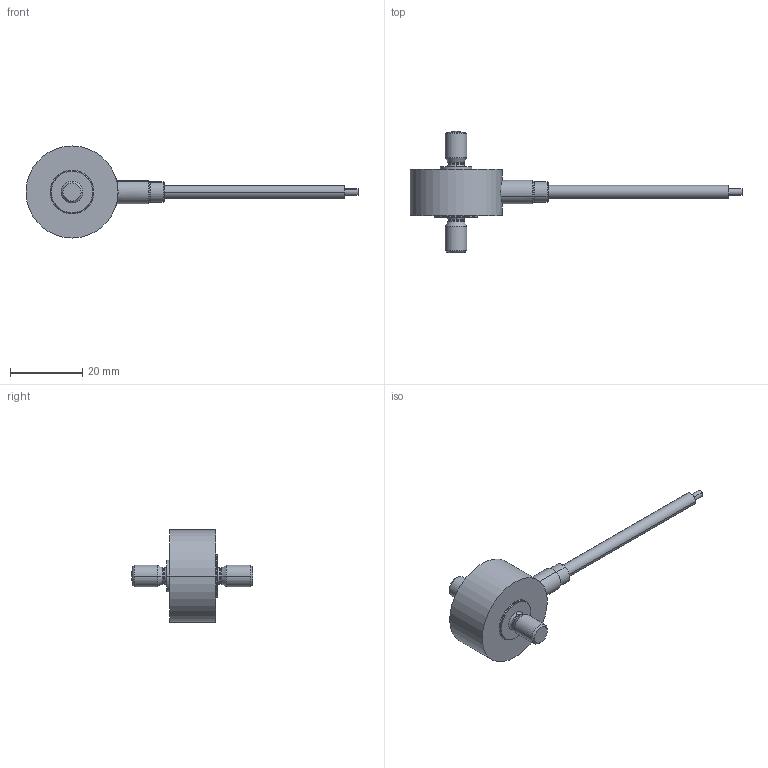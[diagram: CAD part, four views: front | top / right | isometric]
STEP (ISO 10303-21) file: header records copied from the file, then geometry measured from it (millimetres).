
FILE_DESCRIPTION(('STEP AP203'),'1');
FILE_NAME('C:/TPO v2/SharedFS/Outgoing/burster_8431-6002_3iiq1hycynuyojbcyl79ojx4i.stp','2013-08-27T17:18:18',('TraceParts'),('TraceParts S.A.'),'XStep 1.0',' ',' ');
FILE_SCHEMA(('CONFIG_CONTROL_DESIGN'));
Length unit declared in the file: millimetre
Products named in the file (1): 1
Bounding box: 91.6 x 33.4 x 25.4 mm (x, y, z)
Volume: 7691.1 mm3; surface area: 3368.6 mm2
Topology: 1 solids, 1 shells, 75 faces, 181 edges, 115 vertices
Faces by surface type: cylinder 30, cone 16, torus 16, plane 12, bspline 1
Entity records: 2400 total; most frequent: CARTESIAN_POINT 532, DIRECTION 437, ORIENTED_EDGE 356, AXIS2_PLACEMENT_3D 194, EDGE_CURVE 178, CIRCLE 119, VERTEX_POINT 113, EDGE_LOOP 83
